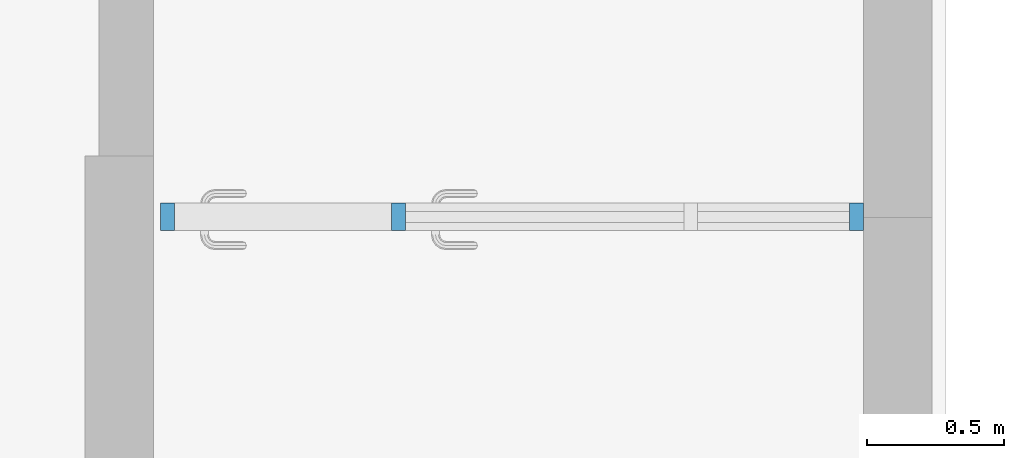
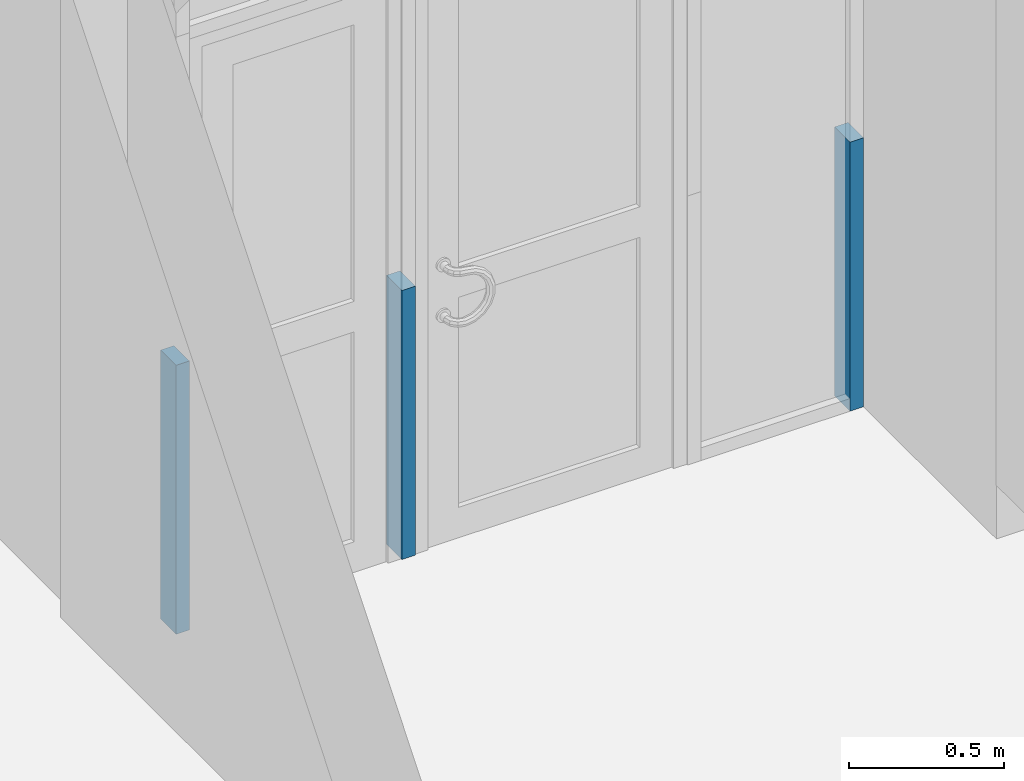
# One storey, part 2 of 9: 3 members, 1 element without a shape of its own.
"""IFC2X3 building model written with IfcOpenShell, lengths in metres."""

from ifc_helpers import new_model, entity, si_unit, converted_unit, derived_unit, direction, frame, origin, origin_2d_with_axis, place, context, subcontext, project, spatial, rectangle, extrude, source, transform, mapped, material, type_object, type_shapes, element, aggregate, save


model = new_model("IFC2X3")

# Units and contexts
model_context = context("Model", 3, precision=1e-05, world=origin(), true_north=direction((6.12303176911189e-17, 1.0)))
body_context = subcontext(model_context, "Body", "Model", "MODEL_VIEW")
ifc_project = project(units=[si_unit("LENGTHUNIT", "METRE"), si_unit("AREAUNIT", "SQUARE_METRE"), si_unit("VOLUMEUNIT", "CUBIC_METRE"), converted_unit("PLANEANGLEUNIT", "DEGREE", entity("IfcRatioMeasure", 0.0174532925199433), si_unit("PLANEANGLEUNIT", "RADIAN"), dimensions=[0, 0, 0, 0, 0, 0, 0]), si_unit("MASSUNIT", "GRAM", prefix="KILO"), derived_unit("MASSDENSITYUNIT", [(si_unit("MASSUNIT", "GRAM", prefix="KILO"), 1), (si_unit("LENGTHUNIT", "METRE"), -3)]), derived_unit("MOMENTOFINERTIAUNIT", [(si_unit("LENGTHUNIT", "METRE"), 4)]), si_unit("TIMEUNIT", "SECOND"), si_unit("FREQUENCYUNIT", "HERTZ"), si_unit("THERMODYNAMICTEMPERATUREUNIT", "DEGREE_CELSIUS"), derived_unit("THERMALTRANSMITTANCEUNIT", [(si_unit("MASSUNIT", "GRAM", prefix="KILO"), 1), (si_unit("THERMODYNAMICTEMPERATUREUNIT", "KELVIN"), -1), (si_unit("TIMEUNIT", "SECOND"), -3)]), derived_unit("VOLUMETRICFLOWRATEUNIT", [(si_unit("LENGTHUNIT", "METRE"), 3), (si_unit("TIMEUNIT", "SECOND"), -1)]), si_unit("ELECTRICCURRENTUNIT", "AMPERE"), si_unit("ELECTRICVOLTAGEUNIT", "VOLT"), si_unit("POWERUNIT", "WATT"), si_unit("FORCEUNIT", "NEWTON", prefix="KILO"), si_unit("ILLUMINANCEUNIT", "LUX"), si_unit("LUMINOUSFLUXUNIT", "LUMEN"), si_unit("LUMINOUSINTENSITYUNIT", "CANDELA"), derived_unit("USERDEFINED", [(si_unit("MASSUNIT", "GRAM", prefix="KILO"), -1), (si_unit("LENGTHUNIT", "METRE"), -2), (si_unit("TIMEUNIT", "SECOND"), 3), (si_unit("LUMINOUSFLUXUNIT", "LUMEN"), 1)]), derived_unit("LINEARVELOCITYUNIT", [(si_unit("LENGTHUNIT", "METRE"), 1), (si_unit("TIMEUNIT", "SECOND"), -1)]), si_unit("PRESSUREUNIT", "PASCAL"), derived_unit("USERDEFINED", [(si_unit("LENGTHUNIT", "METRE"), -2), (si_unit("MASSUNIT", "GRAM", prefix="KILO"), 1), (si_unit("TIMEUNIT", "SECOND"), -2)]), derived_unit("LINEARFORCEUNIT", [(si_unit("MASSUNIT", "GRAM", prefix="KILO"), 1), (si_unit("LENGTHUNIT", "METRE"), 1), (si_unit("TIMEUNIT", "SECOND"), -2), (si_unit("LENGTHUNIT", "METRE"), -1)]), derived_unit("PLANARFORCEUNIT", [(si_unit("MASSUNIT", "GRAM", prefix="KILO"), 1), (si_unit("LENGTHUNIT", "METRE"), 1), (si_unit("TIMEUNIT", "SECOND"), -2), (si_unit("LENGTHUNIT", "METRE"), -2)])], contexts=[model_context])

# Site, building, storey
site_placement = place(None, origin())
site = spatial("IfcSite", under=ifc_project, at=site_placement, Name="Default", CompositionType="ELEMENT")
building_placement = place(site_placement, origin())
building = spatial("IfcBuilding", under=site, at=building_placement, CompositionType="ELEMENT")
storey_placement = place(building_placement, frame((0.0, 0.0, 0.253308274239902)))
storey = spatial("IfcBuildingStorey", under=building, at=storey_placement, Name="Niveau 00 - 01", CompositionType="ELEMENT", Elevation=0.253308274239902)

# Curtain wall, members
curtain_wall_type = type_object("IfcCurtainWallType", Name="Mur-rideau:SANS Calpinage", PredefinedType="NOTDEFINED")
curtain_wall_placement = place(storey_placement, frame((0.0, 0.0, -0.253308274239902)))
curtain_wall = element("IfcCurtainWall", 1, at=curtain_wall_placement, inside=storey, type_object=curtain_wall_type, Name="Mur-rideau:SANS Calpinage", ObjectType="Mur-rideau:SANS Calpinage")
ifc_material = material(Name="Aluminium 2")
member_type_1 = type_object("IfcMemberType", Name="Meneau rectangulaire:50 x 100mm", PredefinedType="MULLION", material=ifc_material)
shared_shape_1 = source(origin(), body_context, "Body", "SweptSolid", [
    extrude(rectangle(XDim=0.1, YDim=0.05, at=origin_2d_with_axis()), frame((-0.025, 0.0, -1.06), z_axis=(0.0, 0.0, 1.0), x_axis=(0.0, -1.0, 0.0)), (0.0, 0.0, 1.0), 1.06),
])
type_shapes(member_type_1, [shared_shape_1])
placement_1 = place(building_placement, origin())
member_1_placement = place(placement_1, frame((-6.50608633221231, -19.8976865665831, 0.253308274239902), z_axis=(0.0, 0.0, -1.0), x_axis=(-1.0, 0.0, 0.0)))
member_1 = element("IfcMember", 2, at=member_1_placement, type_object=member_type_1, material=ifc_material, Name="Meneau rectangulaire:50 x 100mm", ObjectType="Meneau rectangulaire:50 x 100mm", context=body_context, shape_type="MappedRepresentation", body=[
    mapped(shared_shape_1, transform((0.0, 0.0, 0.0), scale=1.0)),
])
member_type_2 = type_object("IfcMemberType", Name="Meneau rectangulaire:50 x 100mm", PredefinedType="MULLION", material=ifc_material)
shared_shape_2 = source(origin(), body_context, "Body", "SweptSolid", [
    extrude(rectangle(XDim=0.1, YDim=0.05, at=origin_2d_with_axis()), frame((0.0, 0.0, -1.06), z_axis=(0.0, 0.0, 1.0), x_axis=(0.0, -1.0, 0.0)), (0.0, 0.0, 1.0), 1.06),
])
type_shapes(member_type_2, [shared_shape_2])
placement_2 = place(building_placement, frame((0.0, 0.0, 0.893308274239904)))
member_2_placement = place(placement_2, frame((-5.63898917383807, -19.8976865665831, -0.640000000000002), z_axis=(0.0, 0.0, -1.0), x_axis=(-1.0, 0.0, 0.0)))
member_2 = element("IfcMember", 3, at=member_2_placement, type_object=member_type_2, material=ifc_material, Name="Meneau rectangulaire:50 x 100mm", ObjectType="Meneau rectangulaire:50 x 100mm", context=body_context, shape_type="MappedRepresentation", body=[
    mapped(shared_shape_2, transform((0.0, 0.0, 0.0), scale=1.0)),
])
member_type_3 = type_object("IfcMemberType", Name="Meneau rectangulaire:50 x 100mm", PredefinedType="MULLION", material=ifc_material)
shared_shape_3 = source(origin(), body_context, "Body", "SweptSolid", [
    extrude(rectangle(XDim=0.1, YDim=0.05, at=origin_2d_with_axis()), frame((-0.025, 0.0, -1.06), z_axis=(0.0, 0.0, 1.0), x_axis=(0.0, -1.0, 0.0)), (0.0, 0.0, 1.0), 1.06),
])
type_shapes(member_type_3, [shared_shape_3])
member_3_placement = place(placement_2, frame((-3.94398917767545, -19.8976865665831, 0.419999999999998)))
member_3 = element("IfcMember", 4, at=member_3_placement, type_object=member_type_3, material=ifc_material, Name="Meneau rectangulaire:50 x 100mm", ObjectType="Meneau rectangulaire:50 x 100mm", context=body_context, shape_type="MappedRepresentation", body=[
    mapped(shared_shape_3, transform((0.0, 0.0, 0.0), scale=1.0)),
])
aggregate(curtain_wall, [member_1, member_2, member_3])

save(model, "model.ifc")
